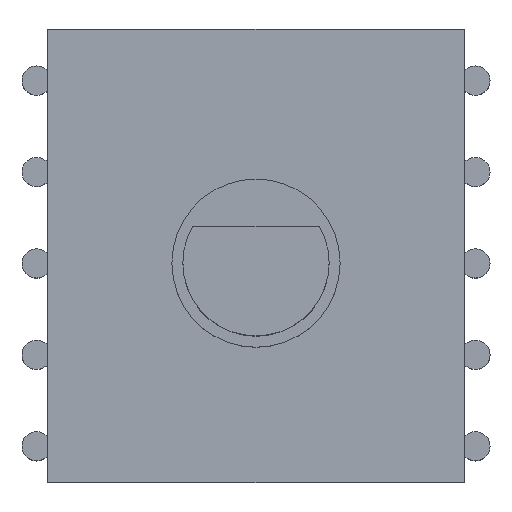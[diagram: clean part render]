
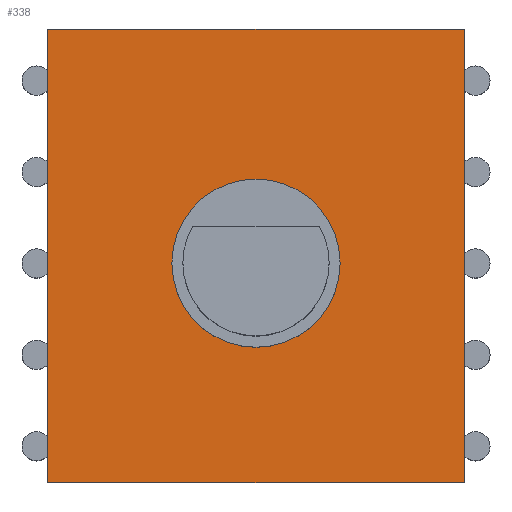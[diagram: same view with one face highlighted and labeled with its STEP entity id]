
A CAD part, top view. The second image highlights one B-rep face of the part: STEP entity #338.
In plain terms, the highlighted planar face has unit normal (0, 0, 1).
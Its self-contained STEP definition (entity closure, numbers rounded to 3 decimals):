
#24 = VERTEX_POINT('',#25);
#25 = CARTESIAN_POINT('',(-5.7,-6.,3.5));
#32 = PLANE('',#33);
#33 = AXIS2_PLACEMENT_3D('',#34,#35,#36);
#34 = CARTESIAN_POINT('',(-5.7,-6.,0.));
#35 = DIRECTION('',(1.,0.,-0.));
#36 = DIRECTION('',(0.,0.,1.));
#44 = PLANE('',#45);
#45 = AXIS2_PLACEMENT_3D('',#46,#47,#48);
#46 = CARTESIAN_POINT('',(-5.7,-6.,0.));
#47 = DIRECTION('',(-0.,1.,0.));
#48 = DIRECTION('',(0.,0.,1.));
#85 = VERTEX_POINT('',#86);
#86 = CARTESIAN_POINT('',(-5.7,6.4,3.5));
#100 = PLANE('',#101);
#101 = AXIS2_PLACEMENT_3D('',#102,#103,#104);
#102 = CARTESIAN_POINT('',(-5.7,6.4,0.));
#103 = DIRECTION('',(-0.,1.,0.));
#104 = DIRECTION('',(0.,0.,1.));
#112 = EDGE_CURVE('',#24,#85,#113,.T.);
#113 = SURFACE_CURVE('',#114,(#118,#125),.PCURVE_S1.);
#114 = LINE('',#115,#116);
#115 = CARTESIAN_POINT('',(-5.7,-6.,3.5));
#116 = VECTOR('',#117,1.);
#117 = DIRECTION('',(-0.,1.,0.));
#118 = PCURVE('',#32,#119);
#119 = DEFINITIONAL_REPRESENTATION('',(#120),#124);
#120 = LINE('',#121,#122);
#121 = CARTESIAN_POINT('',(3.5,0.));
#122 = VECTOR('',#123,1.);
#123 = DIRECTION('',(0.,-1.));
#124 = ( GEOMETRIC_REPRESENTATION_CONTEXT(2) 
PARAMETRIC_REPRESENTATION_CONTEXT() REPRESENTATION_CONTEXT('2D SPACE',''
  ) );
#125 = PCURVE('',#126,#131);
#126 = PLANE('',#127);
#127 = AXIS2_PLACEMENT_3D('',#128,#129,#130);
#128 = CARTESIAN_POINT('',(-5.7,-6.,3.5));
#129 = DIRECTION('',(0.,0.,1.));
#130 = DIRECTION('',(1.,0.,-0.));
#131 = DEFINITIONAL_REPRESENTATION('',(#132),#136);
#132 = LINE('',#133,#134);
#133 = CARTESIAN_POINT('',(0.,0.));
#134 = VECTOR('',#135,1.);
#135 = DIRECTION('',(0.,1.));
#136 = ( GEOMETRIC_REPRESENTATION_CONTEXT(2) 
PARAMETRIC_REPRESENTATION_CONTEXT() REPRESENTATION_CONTEXT('2D SPACE',''
  ) );
#144 = VERTEX_POINT('',#145);
#145 = CARTESIAN_POINT('',(5.7,-6.,3.5));
#152 = PLANE('',#153);
#153 = AXIS2_PLACEMENT_3D('',#154,#155,#156);
#154 = CARTESIAN_POINT('',(5.7,-6.,0.));
#155 = DIRECTION('',(1.,0.,-0.));
#156 = DIRECTION('',(0.,0.,1.));
#195 = VERTEX_POINT('',#196);
#196 = CARTESIAN_POINT('',(5.7,6.4,3.5));
#217 = EDGE_CURVE('',#144,#195,#218,.T.);
#218 = SURFACE_CURVE('',#219,(#223,#230),.PCURVE_S1.);
#219 = LINE('',#220,#221);
#220 = CARTESIAN_POINT('',(5.7,-6.,3.5));
#221 = VECTOR('',#222,1.);
#222 = DIRECTION('',(-0.,1.,0.));
#223 = PCURVE('',#152,#224);
#224 = DEFINITIONAL_REPRESENTATION('',(#225),#229);
#225 = LINE('',#226,#227);
#226 = CARTESIAN_POINT('',(3.5,0.));
#227 = VECTOR('',#228,1.);
#228 = DIRECTION('',(0.,-1.));
#229 = ( GEOMETRIC_REPRESENTATION_CONTEXT(2) 
PARAMETRIC_REPRESENTATION_CONTEXT() REPRESENTATION_CONTEXT('2D SPACE',''
  ) );
#230 = PCURVE('',#126,#231);
#231 = DEFINITIONAL_REPRESENTATION('',(#232),#236);
#232 = LINE('',#233,#234);
#233 = CARTESIAN_POINT('',(11.4,0.));
#234 = VECTOR('',#235,1.);
#235 = DIRECTION('',(0.,1.));
#236 = ( GEOMETRIC_REPRESENTATION_CONTEXT(2) 
PARAMETRIC_REPRESENTATION_CONTEXT() REPRESENTATION_CONTEXT('2D SPACE',''
  ) );
#263 = EDGE_CURVE('',#24,#144,#264,.T.);
#264 = SURFACE_CURVE('',#265,(#269,#276),.PCURVE_S1.);
#265 = LINE('',#266,#267);
#266 = CARTESIAN_POINT('',(-5.7,-6.,3.5));
#267 = VECTOR('',#268,1.);
#268 = DIRECTION('',(1.,0.,-0.));
#269 = PCURVE('',#44,#270);
#270 = DEFINITIONAL_REPRESENTATION('',(#271),#275);
#271 = LINE('',#272,#273);
#272 = CARTESIAN_POINT('',(3.5,0.));
#273 = VECTOR('',#274,1.);
#274 = DIRECTION('',(0.,1.));
#275 = ( GEOMETRIC_REPRESENTATION_CONTEXT(2) 
PARAMETRIC_REPRESENTATION_CONTEXT() REPRESENTATION_CONTEXT('2D SPACE',''
  ) );
#276 = PCURVE('',#126,#277);
#277 = DEFINITIONAL_REPRESENTATION('',(#278),#282);
#278 = LINE('',#279,#280);
#279 = CARTESIAN_POINT('',(0.,0.));
#280 = VECTOR('',#281,1.);
#281 = DIRECTION('',(1.,0.));
#282 = ( GEOMETRIC_REPRESENTATION_CONTEXT(2) 
PARAMETRIC_REPRESENTATION_CONTEXT() REPRESENTATION_CONTEXT('2D SPACE',''
  ) );
#310 = EDGE_CURVE('',#85,#195,#311,.T.);
#311 = SURFACE_CURVE('',#312,(#316,#323),.PCURVE_S1.);
#312 = LINE('',#313,#314);
#313 = CARTESIAN_POINT('',(-5.7,6.4,3.5));
#314 = VECTOR('',#315,1.);
#315 = DIRECTION('',(1.,0.,-0.));
#316 = PCURVE('',#100,#317);
#317 = DEFINITIONAL_REPRESENTATION('',(#318),#322);
#318 = LINE('',#319,#320);
#319 = CARTESIAN_POINT('',(3.5,0.));
#320 = VECTOR('',#321,1.);
#321 = DIRECTION('',(0.,1.));
#322 = ( GEOMETRIC_REPRESENTATION_CONTEXT(2) 
PARAMETRIC_REPRESENTATION_CONTEXT() REPRESENTATION_CONTEXT('2D SPACE',''
  ) );
#323 = PCURVE('',#126,#324);
#324 = DEFINITIONAL_REPRESENTATION('',(#325),#329);
#325 = LINE('',#326,#327);
#326 = CARTESIAN_POINT('',(0.,12.4));
#327 = VECTOR('',#328,1.);
#328 = DIRECTION('',(1.,0.));
#329 = ( GEOMETRIC_REPRESENTATION_CONTEXT(2) 
PARAMETRIC_REPRESENTATION_CONTEXT() REPRESENTATION_CONTEXT('2D SPACE',''
  ) );
#338 = ADVANCED_FACE('',(#339),#126,.T.);
#339 = FACE_BOUND('',#340,.T.);
#340 = EDGE_LOOP('',(#341,#342,#343,#344));
#341 = ORIENTED_EDGE('',*,*,#112,.F.);
#342 = ORIENTED_EDGE('',*,*,#263,.T.);
#343 = ORIENTED_EDGE('',*,*,#217,.T.);
#344 = ORIENTED_EDGE('',*,*,#310,.F.);
